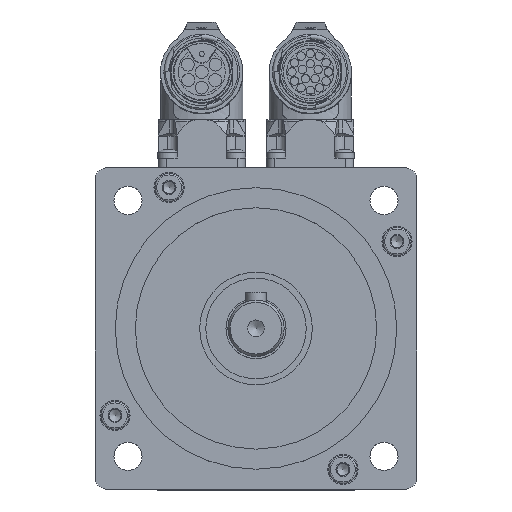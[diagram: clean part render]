
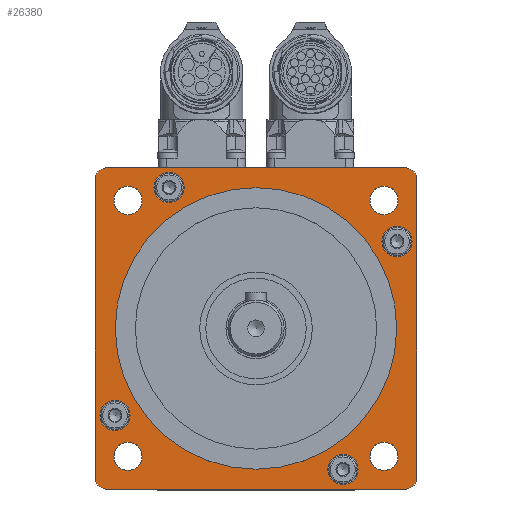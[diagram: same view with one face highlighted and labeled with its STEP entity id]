
A CAD part, top view. The second image highlights one B-rep face of the part: STEP entity #26380.
In plain terms, the highlighted planar face has unit normal (0, 0, 1).
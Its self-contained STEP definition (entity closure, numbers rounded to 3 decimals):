
#1540=FACE_BOUND('',#6325,.T.);
#1541=FACE_BOUND('',#6326,.T.);
#1542=FACE_BOUND('',#6327,.T.);
#1543=FACE_BOUND('',#6328,.T.);
#1544=FACE_BOUND('',#6329,.T.);
#1545=FACE_BOUND('',#6330,.T.);
#1546=FACE_BOUND('',#6331,.T.);
#1547=FACE_BOUND('',#6332,.T.);
#1548=FACE_BOUND('',#6333,.T.);
#1549=FACE_BOUND('',#6334,.T.);
#2583=CIRCLE('',#28880,3.75);
#2587=CIRCLE('',#28887,3.75);
#2591=CIRCLE('',#28894,3.75);
#2595=CIRCLE('',#28901,3.75);
#2598=CIRCLE('',#28906,3.5);
#2600=CIRCLE('',#28909,3.5);
#2602=CIRCLE('',#28912,3.5);
#2604=CIRCLE('',#28915,3.5);
#2606=CIRCLE('',#28918,3.);
#2611=CIRCLE('',#28926,3.);
#2612=CIRCLE('',#28929,3.);
#2613=CIRCLE('',#28932,3.);
#2614=CIRCLE('',#28935,35.);
#6325=EDGE_LOOP('',(#21764));
#6326=EDGE_LOOP('',(#21765));
#6327=EDGE_LOOP('',(#21766));
#6328=EDGE_LOOP('',(#21767));
#6329=EDGE_LOOP('',(#21768));
#6330=EDGE_LOOP('',(#21769));
#6331=EDGE_LOOP('',(#21770));
#6332=EDGE_LOOP('',(#21771));
#6333=EDGE_LOOP('',(#21772,#21773,#21774,#21775,#21776,#21777,#21778,#21779));
#6334=EDGE_LOOP('',(#21780));
#8079=LINE('',#48427,#9605);
#8085=LINE('',#48449,#9611);
#8088=LINE('',#48457,#9614);
#8090=LINE('',#48463,#9616);
#9605=VECTOR('',#35079,74.);
#9611=VECTOR('',#35101,74.);
#9614=VECTOR('',#35110,74.);
#9616=VECTOR('',#35118,74.);
#11835=VERTEX_POINT('',#48355);
#11839=VERTEX_POINT('',#48366);
#11843=VERTEX_POINT('',#48377);
#11847=VERTEX_POINT('',#48388);
#11850=VERTEX_POINT('',#48396);
#11852=VERTEX_POINT('',#48401);
#11854=VERTEX_POINT('',#48406);
#11856=VERTEX_POINT('',#48411);
#11859=VERTEX_POINT('',#48417);
#11860=VERTEX_POINT('',#48419);
#11862=VERTEX_POINT('',#48425);
#11869=VERTEX_POINT('',#48443);
#11870=VERTEX_POINT('',#48447);
#11871=VERTEX_POINT('',#48451);
#11872=VERTEX_POINT('',#48455);
#11873=VERTEX_POINT('',#48459);
#11874=VERTEX_POINT('',#48465);
#15238=EDGE_CURVE('',#11835,#11835,#2583,.T.);
#15242=EDGE_CURVE('',#11839,#11839,#2587,.T.);
#15246=EDGE_CURVE('',#11843,#11843,#2591,.T.);
#15250=EDGE_CURVE('',#11847,#11847,#2595,.T.);
#15253=EDGE_CURVE('',#11850,#11850,#2598,.T.);
#15255=EDGE_CURVE('',#11852,#11852,#2600,.T.);
#15257=EDGE_CURVE('',#11854,#11854,#2602,.T.);
#15259=EDGE_CURVE('',#11856,#11856,#2604,.T.);
#15262=EDGE_CURVE('',#11859,#11860,#2606,.T.);
#15266=EDGE_CURVE('',#11862,#11859,#8079,.T.);
#15275=EDGE_CURVE('',#11869,#11862,#2611,.T.);
#15277=EDGE_CURVE('',#11870,#11869,#8085,.T.);
#15279=EDGE_CURVE('',#11871,#11870,#2612,.T.);
#15281=EDGE_CURVE('',#11872,#11871,#8088,.T.);
#15283=EDGE_CURVE('',#11873,#11872,#2613,.T.);
#15284=EDGE_CURVE('',#11860,#11873,#8090,.T.);
#15285=EDGE_CURVE('',#11874,#11874,#2614,.T.);
#21764=ORIENTED_EDGE('',*,*,#15238,.T.);
#21765=ORIENTED_EDGE('',*,*,#15242,.T.);
#21766=ORIENTED_EDGE('',*,*,#15246,.T.);
#21767=ORIENTED_EDGE('',*,*,#15250,.T.);
#21768=ORIENTED_EDGE('',*,*,#15253,.T.);
#21769=ORIENTED_EDGE('',*,*,#15255,.T.);
#21770=ORIENTED_EDGE('',*,*,#15257,.T.);
#21771=ORIENTED_EDGE('',*,*,#15259,.T.);
#21772=ORIENTED_EDGE('',*,*,#15262,.F.);
#21773=ORIENTED_EDGE('',*,*,#15266,.F.);
#21774=ORIENTED_EDGE('',*,*,#15275,.F.);
#21775=ORIENTED_EDGE('',*,*,#15277,.F.);
#21776=ORIENTED_EDGE('',*,*,#15279,.F.);
#21777=ORIENTED_EDGE('',*,*,#15281,.F.);
#21778=ORIENTED_EDGE('',*,*,#15283,.F.);
#21779=ORIENTED_EDGE('',*,*,#15284,.F.);
#21780=ORIENTED_EDGE('',*,*,#15285,.F.);
#23589=PLANE('',#28934);
#26380=ADVANCED_FACE('',(#1540,#1541,#1542,#1543,#1544,#1545,#1546,#1547,
#1548,#1549),#23589,.T.);
#28880=AXIS2_PLACEMENT_3D('',#48356,#34995,#34996);
#28887=AXIS2_PLACEMENT_3D('',#48367,#35009,#35010);
#28894=AXIS2_PLACEMENT_3D('',#48378,#35023,#35024);
#28901=AXIS2_PLACEMENT_3D('',#48389,#35037,#35038);
#28906=AXIS2_PLACEMENT_3D('',#48397,#35047,#35048);
#28909=AXIS2_PLACEMENT_3D('',#48402,#35053,#35054);
#28912=AXIS2_PLACEMENT_3D('',#48407,#35059,#35060);
#28915=AXIS2_PLACEMENT_3D('',#48412,#35065,#35066);
#28918=AXIS2_PLACEMENT_3D('',#48420,#35072,#35073);
#28926=AXIS2_PLACEMENT_3D('',#48445,#35096,#35097);
#28929=AXIS2_PLACEMENT_3D('',#48453,#35105,#35106);
#28932=AXIS2_PLACEMENT_3D('',#48461,#35114,#35115);
#28934=AXIS2_PLACEMENT_3D('',#48464,#35119,#35120);
#28935=AXIS2_PLACEMENT_3D('',#48466,#35121,#35122);
#34995=DIRECTION('center_axis',(0.,0.,-1.));
#34996=DIRECTION('ref_axis',(0.,-1.,0.));
#35009=DIRECTION('center_axis',(0.,0.,-1.));
#35010=DIRECTION('ref_axis',(-1.,0.,0.));
#35023=DIRECTION('center_axis',(0.,0.,-1.));
#35024=DIRECTION('ref_axis',(0.,1.,0.));
#35037=DIRECTION('center_axis',(0.,0.,-1.));
#35038=DIRECTION('ref_axis',(1.,0.,0.));
#35047=DIRECTION('center_axis',(0.,0.,-1.));
#35048=DIRECTION('ref_axis',(0.,-1.,0.));
#35053=DIRECTION('center_axis',(0.,0.,-1.));
#35054=DIRECTION('ref_axis',(-1.,0.,0.));
#35059=DIRECTION('center_axis',(0.,0.,-1.));
#35060=DIRECTION('ref_axis',(0.,1.,0.));
#35065=DIRECTION('center_axis',(0.,0.,-1.));
#35066=DIRECTION('ref_axis',(1.,0.,0.));
#35072=DIRECTION('center_axis',(0.,0.,-1.));
#35073=DIRECTION('ref_axis',(-0.707,-0.707,0.));
#35079=DIRECTION('',(-1.,0.,0.));
#35096=DIRECTION('center_axis',(0.,0.,-1.));
#35097=DIRECTION('ref_axis',(0.707,-0.707,0.));
#35101=DIRECTION('',(0.,-1.,0.));
#35105=DIRECTION('center_axis',(0.,0.,-1.));
#35106=DIRECTION('ref_axis',(0.707,0.707,0.));
#35110=DIRECTION('',(1.,0.,0.));
#35114=DIRECTION('center_axis',(0.,0.,-1.));
#35115=DIRECTION('ref_axis',(-0.707,0.707,0.));
#35118=DIRECTION('',(0.,1.,0.));
#35119=DIRECTION('center_axis',(0.,0.,1.));
#35120=DIRECTION('ref_axis',(0.,-1.,0.));
#35121=DIRECTION('center_axis',(0.,0.,1.));
#35122=DIRECTION('ref_axis',(1.,0.,0.));
#48355=CARTESIAN_POINT('',(21.617,-38.806,8.5));
#48356=CARTESIAN_POINT('Origin',(21.617,-35.056,8.5));
#48366=CARTESIAN_POINT('',(-38.806,-21.617,8.5));
#48367=CARTESIAN_POINT('Origin',(-35.056,-21.617,8.5));
#48377=CARTESIAN_POINT('',(-21.617,38.806,8.5));
#48378=CARTESIAN_POINT('Origin',(-21.617,35.056,8.5));
#48388=CARTESIAN_POINT('',(38.806,21.617,8.5));
#48389=CARTESIAN_POINT('Origin',(35.056,21.617,8.5));
#48396=CARTESIAN_POINT('',(31.82,28.32,8.5));
#48397=CARTESIAN_POINT('Origin',(31.82,31.82,8.5));
#48401=CARTESIAN_POINT('',(28.32,-31.82,8.5));
#48402=CARTESIAN_POINT('Origin',(31.82,-31.82,8.5));
#48406=CARTESIAN_POINT('',(-31.82,-28.32,8.5));
#48407=CARTESIAN_POINT('Origin',(-31.82,-31.82,8.5));
#48411=CARTESIAN_POINT('',(-28.32,31.82,8.5));
#48412=CARTESIAN_POINT('Origin',(-31.82,31.82,8.5));
#48417=CARTESIAN_POINT('',(-37.,-40.,8.5));
#48419=CARTESIAN_POINT('',(-40.,-37.,8.5));
#48420=CARTESIAN_POINT('Origin',(-37.,-37.,8.5));
#48425=CARTESIAN_POINT('',(37.,-40.,8.5));
#48427=CARTESIAN_POINT('',(40.,-40.,8.5));
#48443=CARTESIAN_POINT('',(40.,-37.,8.5));
#48445=CARTESIAN_POINT('Origin',(37.,-37.,8.5));
#48447=CARTESIAN_POINT('',(40.,37.,8.5));
#48449=CARTESIAN_POINT('',(40.,40.,8.5));
#48451=CARTESIAN_POINT('',(37.,40.,8.5));
#48453=CARTESIAN_POINT('Origin',(37.,37.,8.5));
#48455=CARTESIAN_POINT('',(-37.,40.,8.5));
#48457=CARTESIAN_POINT('',(-40.,40.,8.5));
#48459=CARTESIAN_POINT('',(-40.,37.,8.5));
#48461=CARTESIAN_POINT('Origin',(-37.,37.,8.5));
#48463=CARTESIAN_POINT('',(-40.,-40.,8.5));
#48464=CARTESIAN_POINT('Origin',(0.,-35.,8.5));
#48465=CARTESIAN_POINT('',(0.,-35.,8.5));
#48466=CARTESIAN_POINT('Origin',(0.,0.,8.5));
